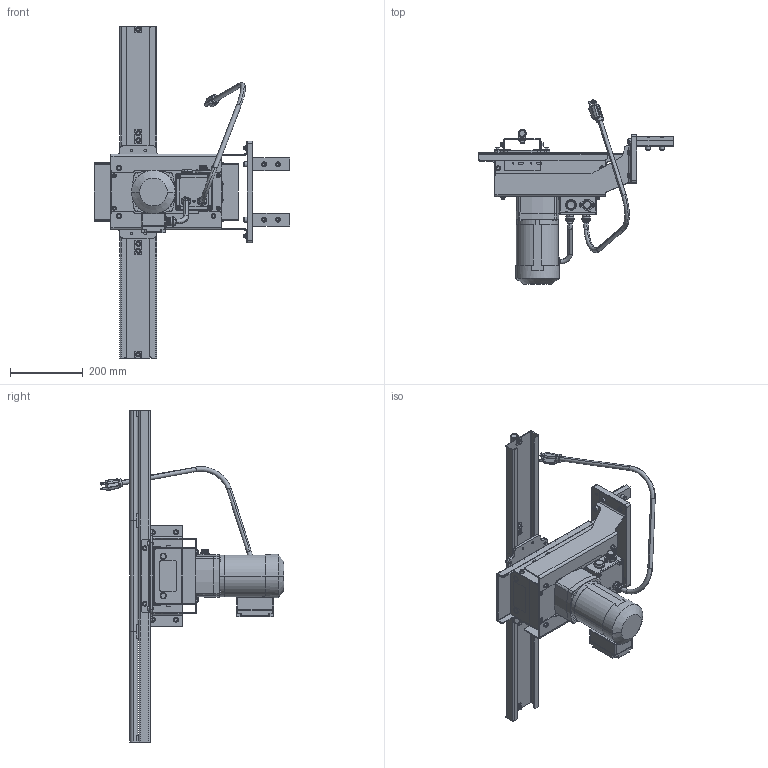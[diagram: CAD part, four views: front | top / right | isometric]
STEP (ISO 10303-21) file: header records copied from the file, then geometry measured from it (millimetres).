
FILE_DESCRIPTION (( 'STEP AP203' ), '1' );
FILE_NAME ('EGD-050 Assembly R1.STEP', '2014-06-06T19:33:29', ( 'paxadmin' ), ( 'Microsoft' ), 'SwSTEP 2.0', 'SolidWorks 2013', '' );
FILE_SCHEMA (( 'CONFIG_CONTROL_DESIGN' ));
Length unit declared in the file: inch
Products named in the file (1): EGD-050 Assembly R1
Bounding box: 537.72 x 506.51 x 914.4 mm (x, y, z)
Surface area: 1576458 mm2 (no closed solid volume)
Topology: 0 solids, 159 shells, 1425 faces, 4927 edges, 3582 vertices
Faces by surface type: plane 732, cylinder 386, cone 153, torus 100, bspline 40, sphere 14
Entity records: 57404 total; most frequent: CARTESIAN_POINT 15415, DIRECTION 9020, ORIENTED_EDGE 7516, EDGE_CURVE 4907, VERTEX_POINT 3580, AXIS2_PLACEMENT_3D 3333, VECTOR 2354, LINE 2354
